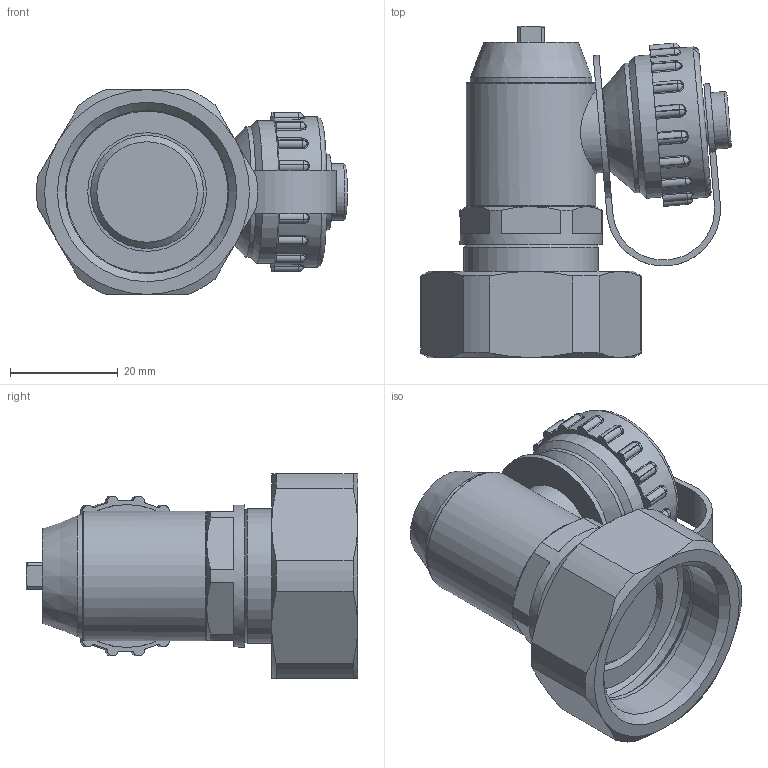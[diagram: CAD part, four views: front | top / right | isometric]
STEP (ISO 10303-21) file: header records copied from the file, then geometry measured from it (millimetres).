
FILE_DESCRIPTION((''),'2;1');
FILE_NAME('C:\Users\duckj\Desktop\10028149.stp','2016-10-27T13:57:40',('duckj'),(''),'Autodesk Inventor 2013','Autodesk Inventor 2013','');
FILE_SCHEMA(('CONFIG_CONTROL_DESIGN'));
Length unit declared in the file: millimetre
Products named in the file (1): 27102016_043
Bounding box: 57.63 x 61.5 x 38 mm (x, y, z)
Volume: 40079.5 mm3; surface area: 13979.2 mm2
Topology: 1 solids, 1 shells, 324 faces, 775 edges, 468 vertices
Faces by surface type: cylinder 122, plane 59, torus 40, bspline 36, sphere 36, cone 31
Full cylindrical faces by diameter (mm): 8 x1, 9 x1, 10.5 x1, 15.5 x2, 20.955 x1, 22 x1, 22.5 x1, 24 x1, 24.117 x1, 25 x1, 26.4 x1, 26.441 x1, 26.5 x1, 28 x1, 30 x1, 30.29 x1, 30.291 x1, 33.5 x1
Entity records: 10442 total; most frequent: CARTESIAN_POINT 2834, DIRECTION 1598, ORIENTED_EDGE 1462, EDGE_CURVE 731, AXIS2_PLACEMENT_3D 700, VERTEX_POINT 456, CIRCLE 410, EDGE_LOOP 375
